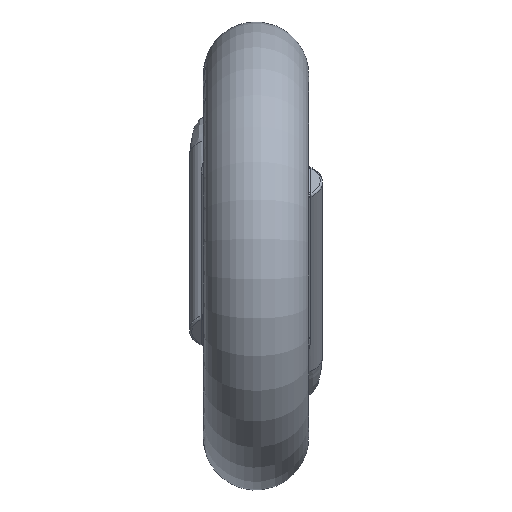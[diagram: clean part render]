
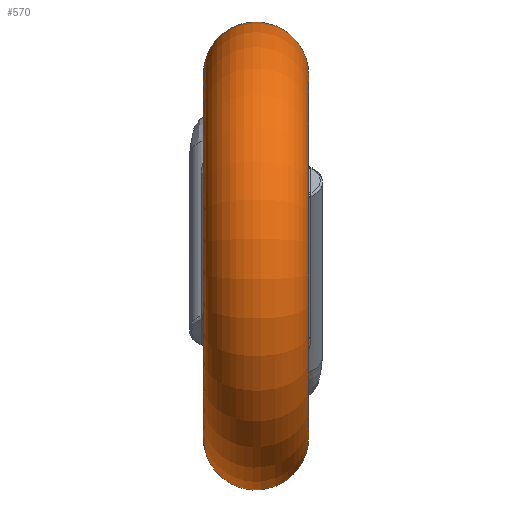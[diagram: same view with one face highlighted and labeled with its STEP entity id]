
A CAD part, left-side view. The second image highlights one B-rep face of the part: STEP entity #570.
In plain terms, the highlighted toroidal (fillet/blend) face has major radius 7.795 mm and minor radius 2.255 mm.
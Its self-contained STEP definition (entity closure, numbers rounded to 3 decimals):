
#20=TOROIDAL_SURFACE('',#632,7.795,2.255);
#81=B_SPLINE_CURVE_WITH_KNOTS('',3,(#1790,#1791,#1792,#1793,#1794,#1795,
#1796,#1797,#1798,#1799,#1800,#1801,#1802,#1803,#1804),.UNSPECIFIED.,.F.,
 .F.,(4,1,1,1,1,1,1,1,1,1,1,1,4),(-0.825,-0.707,
-0.589,-0.472,-0.413,-0.383,
-0.354,-0.295,-0.236,-0.177,
-0.118,-0.088,0.),.UNSPECIFIED.);
#82=B_SPLINE_CURVE_WITH_KNOTS('',3,(#1810,#1811,#1812,#1813,#1814,#1815,
#1816,#1817,#1818,#1819,#1820,#1821,#1822,#1823,#1824,#1825),
 .UNSPECIFIED.,.F.,.F.,(4,1,1,1,1,1,1,1,1,1,1,1,1,4),(-0.825,
-0.766,-0.707,-0.589,-0.531,
-0.472,-0.413,-0.354,-0.295,
-0.265,-0.236,-0.177,-0.118,
0.),.UNSPECIFIED.);
#97=FACE_BOUND('',#171,.T.);
#129=FACE_OUTER_BOUND('',#170,.T.);
#170=EDGE_LOOP('',(#453,#454));
#171=EDGE_LOOP('',(#455,#456));
#215=CIRCLE('',#633,7.795);
#216=CIRCLE('',#634,7.795);
#259=VERTEX_POINT('',#1680);
#260=VERTEX_POINT('',#1788);
#261=VERTEX_POINT('',#1808);
#262=VERTEX_POINT('',#1809);
#330=EDGE_CURVE('',#260,#259,#81,.T.);
#332=EDGE_CURVE('',#261,#262,#82,.T.);
#333=EDGE_CURVE('',#261,#262,#215,.T.);
#334=EDGE_CURVE('',#260,#259,#216,.T.);
#453=ORIENTED_EDGE('',*,*,#332,.T.);
#454=ORIENTED_EDGE('',*,*,#333,.F.);
#455=ORIENTED_EDGE('',*,*,#330,.T.);
#456=ORIENTED_EDGE('',*,*,#334,.F.);
#570=ADVANCED_FACE('',(#129,#97),#20,.T.);
#632=AXIS2_PLACEMENT_3D('',#1807,#759,#760);
#633=AXIS2_PLACEMENT_3D('',#1826,#761,#762);
#634=AXIS2_PLACEMENT_3D('',#1827,#763,#764);
#759=DIRECTION('center_axis',(0.,1.,0.));
#760=DIRECTION('ref_axis',(1.,0.,0.));
#761=DIRECTION('center_axis',(0.,-1.,0.));
#762=DIRECTION('ref_axis',(-1.,0.,0.));
#763=DIRECTION('center_axis',(0.,1.,0.));
#764=DIRECTION('ref_axis',(-1.,0.,0.));
#1680=CARTESIAN_POINT('',(6.921,3.7,3.587));
#1788=CARTESIAN_POINT('',(7.668,3.7,1.402));
#1790=CARTESIAN_POINT('Ctrl Pts',(7.668,3.7,1.402));
#1791=CARTESIAN_POINT('Ctrl Pts',(7.92,3.7,1.675));
#1792=CARTESIAN_POINT('Ctrl Pts',(8.49,3.574,2.143));
#1793=CARTESIAN_POINT('Ctrl Pts',(9.213,2.925,2.707));
#1794=CARTESIAN_POINT('Ctrl Pts',(9.315,2.256,3.422));
#1795=CARTESIAN_POINT('Ctrl Pts',(9.114,2.045,4.045));
#1796=CARTESIAN_POINT('Ctrl Pts',(8.951,2.037,4.397));
#1797=CARTESIAN_POINT('Ctrl Pts',(8.76,2.108,4.725));
#1798=CARTESIAN_POINT('Ctrl Pts',(8.483,2.366,5.048));
#1799=CARTESIAN_POINT('Ctrl Pts',(8.149,2.832,5.079));
#1800=CARTESIAN_POINT('Ctrl Pts',(7.858,3.222,4.817));
#1801=CARTESIAN_POINT('Ctrl Pts',(7.625,3.45,4.497));
#1802=CARTESIAN_POINT('Ctrl Pts',(7.331,3.642,4.076));
#1803=CARTESIAN_POINT('Ctrl Pts',(7.109,3.7,3.784));
#1804=CARTESIAN_POINT('Ctrl Pts',(6.921,3.7,3.587));
#1807=CARTESIAN_POINT('Origin',(0.,1.445,0.));
#1808=CARTESIAN_POINT('',(7.668,-0.81,-1.402));
#1809=CARTESIAN_POINT('',(6.921,-0.81,-3.587));
#1810=CARTESIAN_POINT('Ctrl Pts',(7.668,-0.81,-1.402));
#1811=CARTESIAN_POINT('Ctrl Pts',(7.794,-0.81,-1.539));
#1812=CARTESIAN_POINT('Ctrl Pts',(8.059,-0.78,-1.797));
#1813=CARTESIAN_POINT('Ctrl Pts',(8.613,-0.575,-2.234));
#1814=CARTESIAN_POINT('Ctrl Pts',(9.087,-0.143,-2.618));
#1815=CARTESIAN_POINT('Ctrl Pts',(9.277,0.366,-3.134));
#1816=CARTESIAN_POINT('Ctrl Pts',(9.256,0.695,-3.602));
#1817=CARTESIAN_POINT('Ctrl Pts',(9.086,0.875,-4.133));
#1818=CARTESIAN_POINT('Ctrl Pts',(8.815,0.832,-4.662));
#1819=CARTESIAN_POINT('Ctrl Pts',(8.539,0.575,-4.982));
#1820=CARTESIAN_POINT('Ctrl Pts',(8.316,0.289,-5.066));
#1821=CARTESIAN_POINT('Ctrl Pts',(8.102,-0.006,
-5.033));
#1822=CARTESIAN_POINT('Ctrl Pts',(7.858,-0.332,-4.818));
#1823=CARTESIAN_POINT('Ctrl Pts',(7.486,-0.695,-4.303));
#1824=CARTESIAN_POINT('Ctrl Pts',(7.172,-0.81,-3.85));
#1825=CARTESIAN_POINT('Ctrl Pts',(6.921,-0.81,-3.587));
#1826=CARTESIAN_POINT('Origin',(0.,-0.81,0.));
#1827=CARTESIAN_POINT('Origin',(0.,3.7,0.));
